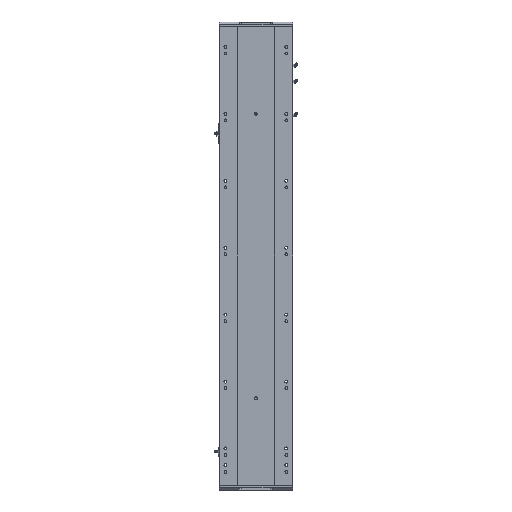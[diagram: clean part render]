
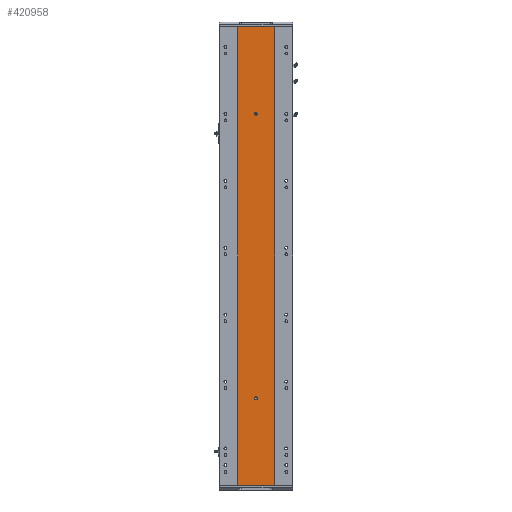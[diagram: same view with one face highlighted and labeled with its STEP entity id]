
A CAD part, front view. The second image highlights one B-rep face of the part: STEP entity #420958.
In plain terms, the highlighted planar face has unit normal (0, -1, 0).
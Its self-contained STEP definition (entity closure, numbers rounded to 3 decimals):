
#9872 = AXIS2_PLACEMENT_3D ( 'NONE', #413463, #143175, #207792 ) ;
#26406 = DIRECTION ( 'NONE',  ( 1., 0., 0. ) ) ;
#31993 = DIRECTION ( 'NONE',  ( 1., 0., 0. ) ) ;
#35379 = LINE ( 'NONE', #164716, #121497 ) ;
#36003 = EDGE_CURVE ( 'NONE', #218560, #443009, #234716, .T. ) ;
#37318 = CARTESIAN_POINT ( 'NONE',  ( -4., 0., 259. ) ) ;
#46212 = DIRECTION ( 'NONE',  ( 0., -1., 0. ) ) ;
#51081 = EDGE_CURVE ( 'NONE', #318429, #80708, #195919, .T. ) ;
#60883 = EDGE_CURVE ( 'NONE', #407997, #293095, #366942, .T. ) ;
#80708 = VERTEX_POINT ( 'NONE', #37318 ) ;
#84891 = VECTOR ( 'NONE', #394939, 1000. ) ;
#88090 = EDGE_CURVE ( 'NONE', #390255, #295610, #125693, .T. ) ;
#93932 = CARTESIAN_POINT ( 'NONE',  ( 0., 0., 1370. ) ) ;
#96226 = DIRECTION ( 'NONE',  ( 0., -1., 0. ) ) ;
#98818 = ORIENTED_EDGE ( 'NONE', *, *, #60883, .F. ) ;
#117179 = LINE ( 'NONE', #331801, #84891 ) ;
#121497 = VECTOR ( 'NONE', #337336, 1000. ) ;
#121683 = CARTESIAN_POINT ( 'NONE',  ( 0., 0., 1110. ) ) ;
#125693 = CIRCLE ( 'NONE', #131170, 4. ) ;
#126957 = DIRECTION ( 'NONE',  ( 0., 1., 0. ) ) ;
#131170 = AXIS2_PLACEMENT_3D ( 'NONE', #296220, #161022, #368139 ) ;
#132260 = LINE ( 'NONE', #181545, #411426 ) ;
#133827 = ORIENTED_EDGE ( 'NONE', *, *, #311488, .T. ) ;
#136437 = AXIS2_PLACEMENT_3D ( 'NONE', #149771, #46212, #218842 ) ;
#143175 = DIRECTION ( 'NONE',  ( 0., 1., 0. ) ) ;
#145149 = EDGE_CURVE ( 'NONE', #295610, #318429, #319799, .T. ) ;
#149397 = CARTESIAN_POINT ( 'NONE',  ( 55., 0., 0. ) ) ;
#149771 = CARTESIAN_POINT ( 'NONE',  ( 0., 0., 1110. ) ) ;
#154582 = CARTESIAN_POINT ( 'NONE',  ( 4., 0., 1370. ) ) ;
#158278 = ORIENTED_EDGE ( 'NONE', *, *, #431697, .F. ) ;
#160143 = CARTESIAN_POINT ( 'NONE',  ( 0., 0., 1114. ) ) ;
#161022 = DIRECTION ( 'NONE',  ( 0., 1., 0. ) ) ;
#164716 = CARTESIAN_POINT ( 'NONE',  ( -4., 0., 1370. ) ) ;
#171688 = ORIENTED_EDGE ( 'NONE', *, *, #51081, .T. ) ;
#175617 = FACE_BOUND ( 'NONE', #390448, .T. ) ;
#176744 = AXIS2_PLACEMENT_3D ( 'NONE', #121683, #96226, #367955 ) ;
#176937 = VERTEX_POINT ( 'NONE', #240936 ) ;
#180005 = CARTESIAN_POINT ( 'NONE',  ( 55., 0., 1370. ) ) ;
#181545 = CARTESIAN_POINT ( 'NONE',  ( -55., 0., 1370. ) ) ;
#195919 = CIRCLE ( 'NONE', #9872, 4. ) ;
#198844 = ORIENTED_EDGE ( 'NONE', *, *, #215540, .F. ) ;
#207792 = DIRECTION ( 'NONE',  ( 0., 0., 1. ) ) ;
#207978 = CIRCLE ( 'NONE', #176744, 4. ) ;
#215468 = ORIENTED_EDGE ( 'NONE', *, *, #36003, .T. ) ;
#215540 = EDGE_CURVE ( 'NONE', #325748, #176937, #207978, .T. ) ;
#218560 = VERTEX_POINT ( 'NONE', #261147 ) ;
#218842 = DIRECTION ( 'NONE',  ( 0., 0., -1. ) ) ;
#234716 = LINE ( 'NONE', #407289, #315292 ) ;
#240936 = CARTESIAN_POINT ( 'NONE',  ( 0., 0., 1106. ) ) ;
#248560 = VECTOR ( 'NONE', #26406, 1000. ) ;
#251039 = FACE_OUTER_BOUND ( 'NONE', #430790, .T. ) ;
#253306 = PLANE ( 'NONE',  #409367 ) ;
#261016 = ORIENTED_EDGE ( 'NONE', *, *, #145149, .T. ) ;
#261147 = CARTESIAN_POINT ( 'NONE',  ( -55., 0., 0. ) ) ;
#264823 = ORIENTED_EDGE ( 'NONE', *, *, #303678, .F. ) ;
#271551 = VECTOR ( 'NONE', #429310, 1000. ) ;
#272550 = CARTESIAN_POINT ( 'NONE',  ( 0., 0., 1370. ) ) ;
#273550 = ORIENTED_EDGE ( 'NONE', *, *, #312464, .T. ) ;
#289049 = CARTESIAN_POINT ( 'NONE',  ( -55., 0., 1370. ) ) ;
#293095 = VERTEX_POINT ( 'NONE', #180005 ) ;
#295610 = VERTEX_POINT ( 'NONE', #328457 ) ;
#296220 = CARTESIAN_POINT ( 'NONE',  ( 0., 0., 261. ) ) ;
#303678 = EDGE_CURVE ( 'NONE', #293095, #443009, #117179, .T. ) ;
#311488 = EDGE_CURVE ( 'NONE', #407997, #218560, #132260, .T. ) ;
#312464 = EDGE_CURVE ( 'NONE', #80708, #390255, #35379, .T. ) ;
#315292 = VECTOR ( 'NONE', #31993, 1000. ) ;
#318429 = VERTEX_POINT ( 'NONE', #375760 ) ;
#319799 = LINE ( 'NONE', #154582, #271551 ) ;
#325748 = VERTEX_POINT ( 'NONE', #160143 ) ;
#328457 = CARTESIAN_POINT ( 'NONE',  ( 4., 0., 261. ) ) ;
#331801 = CARTESIAN_POINT ( 'NONE',  ( 55., 0., 1370. ) ) ;
#337336 = DIRECTION ( 'NONE',  ( 0., 0., 1. ) ) ;
#345641 = ORIENTED_EDGE ( 'NONE', *, *, #88090, .T. ) ;
#358245 = FACE_BOUND ( 'NONE', #360582, .T. ) ;
#360045 = DIRECTION ( 'NONE',  ( 0., 0., -1. ) ) ;
#360582 = EDGE_LOOP ( 'NONE', ( #273550, #345641, #261016, #171688 ) ) ;
#366942 = LINE ( 'NONE', #272550, #248560 ) ;
#367955 = DIRECTION ( 'NONE',  ( 0., 0., -1. ) ) ;
#368139 = DIRECTION ( 'NONE',  ( 0., 0., 1. ) ) ;
#371346 = CARTESIAN_POINT ( 'NONE',  ( -4., 0., 261. ) ) ;
#375760 = CARTESIAN_POINT ( 'NONE',  ( 4., 0., 259. ) ) ;
#390255 = VERTEX_POINT ( 'NONE', #371346 ) ;
#390448 = EDGE_LOOP ( 'NONE', ( #158278, #198844 ) ) ;
#394905 = CIRCLE ( 'NONE', #136437, 4. ) ;
#394939 = DIRECTION ( 'NONE',  ( 0., 0., -1. ) ) ;
#407289 = CARTESIAN_POINT ( 'NONE',  ( 0., 0., 0. ) ) ;
#407997 = VERTEX_POINT ( 'NONE', #289049 ) ;
#409367 = AXIS2_PLACEMENT_3D ( 'NONE', #93932, #126957, #437703 ) ;
#411426 = VECTOR ( 'NONE', #360045, 1000. ) ;
#413463 = CARTESIAN_POINT ( 'NONE',  ( 0., 0., 259. ) ) ;
#420958 = ADVANCED_FACE ( 'NONE', ( #175617, #358245, #251039 ), #253306, .F. ) ;
#429310 = DIRECTION ( 'NONE',  ( 0., 0., -1. ) ) ;
#430790 = EDGE_LOOP ( 'NONE', ( #215468, #264823, #98818, #133827 ) ) ;
#431697 = EDGE_CURVE ( 'NONE', #176937, #325748, #394905, .T. ) ;
#437703 = DIRECTION ( 'NONE',  ( 0., 0., 1. ) ) ;
#443009 = VERTEX_POINT ( 'NONE', #149397 ) ;
